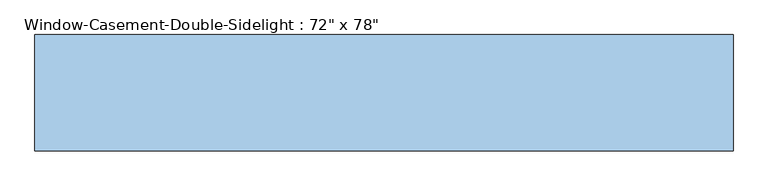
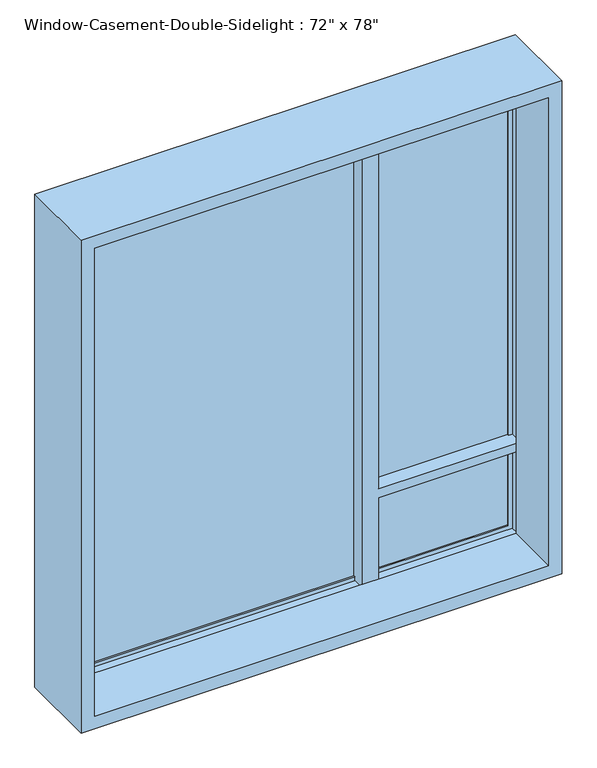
"""IFC4 building model written with IfcOpenShell, lengths in millimetres: window geometry."""

from ifc_helpers import new_model, si_unit, frame, origin, place, context, project, spatial, polyline, outline, extrude, faceted_brep, source, transform, mapped, element, save


def window_0918d598(model_context):
    return source(origin(), model_context, "Body", "SolidModel", [
        faceted_brep([(-863.6, 111.125, 2844.8), (-863.6, 152.4, 2844.8), (863.6, 152.4, 2844.8), (863.6, 111.125, 2844.8), (340.3203125, 111.125, 2844.8), (330.2, 111.125, 2844.8), (330.2, 149.225, 2844.8), (279.4, 149.225, 2844.8), (279.4, 111.125, 2844.8), (-878.8796875, 60.325, 2860.0796875), (-878.8796875, 111.125, 2860.0796875), (878.8796875, 111.125, 2860.0796875), (878.8796875, 60.325, 2860.0796875), (-863.6, -152.4, 2844.8), (-863.6, 60.325, 2844.8), (279.4, 60.325, 2844.8), (340.3203125, 60.325, 2844.8), (863.6, 60.325, 2844.8), (863.6, -152.4, 2844.8), (-914.4, 152.4, 2895.6), (-914.4, -152.4, 2895.6), (914.4, -152.4, 2895.6), (914.4, 152.4, 2895.6), (863.6, 152.4, 965.2), (863.6, 111.125, 965.2), (863.6, 111.125, 1292.8798438), (863.6, 149.225, 1292.8798438), (863.6, 149.225, 1328.4001563), (863.6, 111.125, 1328.4001563), (878.8796875, 111.125, 1328.4001563), (878.8796875, 60.325, 1328.4001563), (878.8796875, 111.125, 949.9203125), (878.8796875, 60.325, 949.9203125), (878.8796875, 60.325, 1292.8798438), (878.8796875, 111.125, 1292.8798438), (863.6, 60.325, 1328.4001563), (863.6, 60.325, 1292.8798438), (863.6, 60.325, 965.2), (863.6, -152.4, 965.2), (914.4, -152.4, 914.4), (914.4, 152.4, 914.4), (-863.6, 152.4, 965.2), (-863.6, 111.125, 965.2), (279.4, 111.125, 965.2), (279.4, 149.225, 965.2), (330.2, 149.225, 965.2), (330.2, 111.125, 965.2), (340.3203125, 111.125, 965.2), (340.3203125, 111.125, 949.9203125), (340.3203125, 60.325, 949.9203125), (-878.8796875, 111.125, 949.9203125), (-878.8796875, 60.325, 949.9203125), (279.4, 60.325, 949.9203125), (279.4, 111.125, 949.9203125), (340.3203125, 60.325, 965.2), (279.4, 60.325, 965.2), (-863.6, 60.325, 965.2), (-863.6, -152.4, 965.2), (-914.4, -152.4, 914.4), (-914.4, 152.4, 914.4), (330.2, 111.125, 2844.8), (330.2, 149.225, 1328.4001563), (330.2, 149.225, 1292.8798438), (340.3203125, 111.125, 1292.8798438), (340.3203125, 60.325, 1292.8798438), (340.3203125, 60.325, 1328.4001563), (340.3203125, 111.125, 1328.4001563), (330.2, 111.125, 1328.4001563), (330.2, 111.125, 1292.8798438)], [[[0, 1, 2, 3, 4, 5, 6, 7, 8]], [[9, 10, 11, 12]], [[13, 14, 15, 16, 17, 18]], [[19, 20, 21, 22]], [[3, 2, 23, 24, 25, 26, 27, 28]], [[12, 11, 29, 30]], [[31, 32, 33, 34]], [[18, 17, 35, 36, 37, 38]], [[22, 21, 39, 40]], [[24, 23, 41, 42, 43, 44, 45, 46, 47]], [[32, 31, 48, 49]], [[50, 51, 52, 53]], [[38, 37, 54, 55, 56, 57]], [[40, 39, 58, 59]], [[1, 0, 42, 41]], [[48, 31, 34, 25, 24, 47]], [[11, 10, 50, 53, 43, 42, 0, 8, 60, 4, 3, 28, 29]], [[10, 9, 51, 50]], [[9, 12, 30, 35, 17, 16, 15, 14, 56, 55, 52, 51]], [[54, 37, 36, 33, 32, 49]], [[14, 13, 57, 56]], [[21, 20, 58, 39], [13, 18, 38, 57]], [[20, 19, 59, 58]], [[19, 22, 40, 59], [2, 1, 41, 23]], [[44, 7, 6, 61, 27, 26, 62, 45]], [[55, 15, 8, 7, 44, 43, 53, 52]], [[49, 48, 47, 63, 64, 54]], [[4, 16, 65, 66]], [[6, 5, 67, 61]], [[46, 45, 62, 68]], [[36, 64, 63, 68, 62, 26, 25, 34, 33]], [[65, 35, 30, 29, 28, 27, 61, 67, 66]], [[16, 4, 60, 8, 15]], [[15, 55, 54, 64, 36, 35, 65, 16]], [[5, 4, 66, 67]], [[47, 46, 68, 63]]]),
        extrude(outline(polyline([(889.0, 123.825), (889.0, 117.475), (330.2, 117.475), (330.2, 123.825), (889.0, 123.825)])), frame((0.0, 0.0, 1328.4001563), z_axis=(0.0, 0.0, 1.0), x_axis=(1.0, 0.0, 0.0)), (0.0, 0.0, 1.0), 1541.7998438),
        extrude(outline(polyline([(889.0, 136.525), (889.0, 130.175), (330.2, 130.175), (330.2, 136.525), (889.0, 136.525)])), frame((0.0, 0.0, 1328.4001563), z_axis=(0.0, 0.0, 1.0), x_axis=(1.0, 0.0, 0.0)), (0.0, 0.0, 1.0), 1541.7998438),
        extrude(outline(polyline([(279.4, 136.525), (279.4, 130.175), (-863.6, 130.175), (-863.6, 136.525), (279.4, 136.525)])), frame((0.0, 0.0, 949.9203125), z_axis=(0.0, 0.0, 1.0), x_axis=(1.0, 0.0, 0.0)), (0.0, 0.0, 1.0), 1920.2796875),
        extrude(outline(polyline([(279.4, 123.825), (279.4, 117.475), (-863.6, 117.475), (-863.6, 123.825), (279.4, 123.825)])), frame((0.0, 0.0, 949.9203125), z_axis=(0.0, 0.0, 1.0), x_axis=(1.0, 0.0, 0.0)), (0.0, 0.0, 1.0), 1920.2796875),
        extrude(outline(polyline([(889.0, 136.525), (330.2, 136.525), (330.2, 149.225), (889.0, 149.225), (889.0, 136.525)])), frame((0.0, 0.0, 949.9203125), z_axis=(0.0, 0.0, 1.0), x_axis=(1.0, 0.0, 0.0)), (0.0, 0.0, 1.0), 342.9595312),
        extrude(outline(polyline([(889.0, 123.825), (889.0, 117.475), (330.2, 117.475), (330.2, 123.825), (889.0, 123.825)])), frame((0.0, 0.0, 949.9203125), z_axis=(0.0, 0.0, 1.0), x_axis=(1.0, 0.0, 0.0)), (0.0, 0.0, 1.0), 342.9595312),
    ])


if __name__ == "__main__":
    model = new_model("IFC4")
    model_context = context("Model", 3, world=origin())
    ifc_project = project(units=[si_unit("LENGTHUNIT", "METRE", prefix="MILLI")], contexts=[model_context])
    site = spatial("IfcSite", under=ifc_project)
    building = spatial("IfcBuilding", under=site)
    placement = place(None, origin())
    window_shape = window_0918d598(model_context)
    element("IfcWindow", 1, ObjectType="Window-Casement-Double-Sidelight : 72\" x 78\"", at=placement, inside=building, context=model_context, shape_type="MappedRepresentation", body=[
        mapped(window_shape, transform((0.0, 0.0, 0.0), x_axis=(1.0, 0.0, 0.0), y_axis=(0.0, 1.0, 0.0), z_axis=(0.0, 0.0, 1.0))),
    ])
    save(model, "model.ifc")
